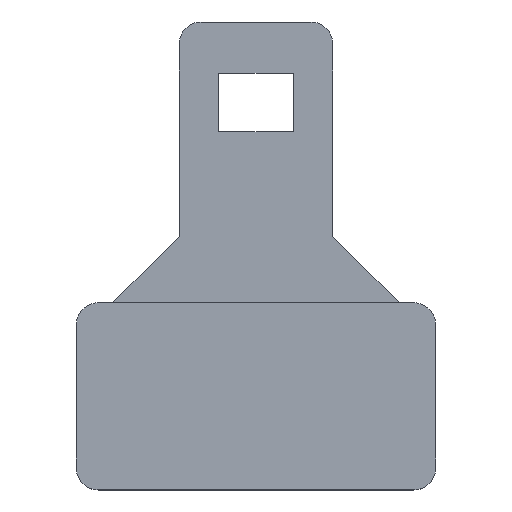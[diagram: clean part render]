
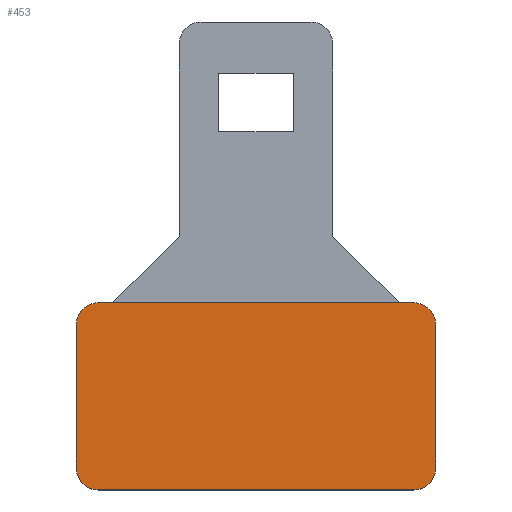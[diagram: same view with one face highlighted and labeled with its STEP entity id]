
A CAD part, top view. The second image highlights one B-rep face of the part: STEP entity #453.
In plain terms, the highlighted planar face has unit normal (0, 0, 1).
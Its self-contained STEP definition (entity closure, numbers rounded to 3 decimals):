
#30=PLANE('',#500);
#51=FACE_OUTER_BOUND('',#73,.T.);
#73=EDGE_LOOP('',(#354,#355,#356,#357,#358,#359,#360,#361));
#113=LINE('',#707,#161);
#118=LINE('',#722,#166);
#120=LINE('',#730,#168);
#123=LINE('',#741,#171);
#161=VECTOR('',#573,10.);
#166=VECTOR('',#586,10.);
#168=VECTOR('',#596,10.);
#171=VECTOR('',#609,10.);
#182=CIRCLE('',#490,3.);
#184=CIRCLE('',#494,3.);
#186=CIRCLE('',#498,3.);
#188=CIRCLE('',#501,3.);
#215=VERTEX_POINT('',#699);
#217=VERTEX_POINT('',#705);
#218=VERTEX_POINT('',#709);
#219=VERTEX_POINT('',#710);
#223=VERTEX_POINT('',#719);
#224=VERTEX_POINT('',#727);
#226=VERTEX_POINT('',#733);
#228=VERTEX_POINT('',#739);
#265=EDGE_CURVE('',#215,#217,#113,.T.);
#266=EDGE_CURVE('',#218,#219,#182,.T.);
#272=EDGE_CURVE('',#223,#219,#118,.T.);
#273=EDGE_CURVE('',#223,#217,#184,.T.);
#276=EDGE_CURVE('',#218,#224,#120,.T.);
#278=EDGE_CURVE('',#226,#224,#186,.T.);
#281=EDGE_CURVE('',#215,#228,#188,.T.);
#282=EDGE_CURVE('',#226,#228,#123,.T.);
#354=ORIENTED_EDGE('',*,*,#281,.F.);
#355=ORIENTED_EDGE('',*,*,#265,.T.);
#356=ORIENTED_EDGE('',*,*,#273,.F.);
#357=ORIENTED_EDGE('',*,*,#272,.T.);
#358=ORIENTED_EDGE('',*,*,#266,.F.);
#359=ORIENTED_EDGE('',*,*,#276,.T.);
#360=ORIENTED_EDGE('',*,*,#278,.F.);
#361=ORIENTED_EDGE('',*,*,#282,.T.);
#453=ADVANCED_FACE('',(#51),#30,.T.);
#490=AXIS2_PLACEMENT_3D('',#711,#576,#577);
#494=AXIS2_PLACEMENT_3D('',#724,#589,#590);
#498=AXIS2_PLACEMENT_3D('',#734,#600,#601);
#500=AXIS2_PLACEMENT_3D('',#738,#605,#606);
#501=AXIS2_PLACEMENT_3D('',#740,#607,#608);
#573=DIRECTION('',(-1.,0.,0.));
#576=DIRECTION('center_axis',(0.,0.,-1.));
#577=DIRECTION('ref_axis',(-0.707,-0.707,0.));
#586=DIRECTION('',(0.,-1.,0.));
#589=DIRECTION('center_axis',(0.,0.,-1.));
#590=DIRECTION('ref_axis',(-0.707,0.707,0.));
#596=DIRECTION('',(1.,0.,0.));
#600=DIRECTION('center_axis',(0.,0.,-1.));
#601=DIRECTION('ref_axis',(0.707,-0.707,0.));
#605=DIRECTION('center_axis',(0.,0.,1.));
#606=DIRECTION('ref_axis',(1.,0.,0.));
#607=DIRECTION('center_axis',(0.,0.,-1.));
#608=DIRECTION('ref_axis',(0.707,0.707,0.));
#609=DIRECTION('',(0.,1.,0.));
#699=CARTESIAN_POINT('',(24.071,-79.391,2.));
#705=CARTESIAN_POINT('',(-19.071,-79.391,2.));
#707=CARTESIAN_POINT('',(22.071,-79.391,2.));
#709=CARTESIAN_POINT('',(-19.071,-105.,2.));
#710=CARTESIAN_POINT('',(-22.071,-102.,2.));
#711=CARTESIAN_POINT('Origin',(-19.071,-102.,2.));
#719=CARTESIAN_POINT('',(-22.071,-82.391,2.));
#722=CARTESIAN_POINT('',(-22.071,-79.391,2.));
#724=CARTESIAN_POINT('Origin',(-19.071,-82.391,2.));
#727=CARTESIAN_POINT('',(24.071,-105.,2.));
#730=CARTESIAN_POINT('',(-22.071,-105.,2.));
#733=CARTESIAN_POINT('',(27.071,-102.,2.));
#734=CARTESIAN_POINT('Origin',(24.071,-102.,2.));
#738=CARTESIAN_POINT('Origin',(2.5,-92.196,2.));
#739=CARTESIAN_POINT('',(27.071,-82.391,2.));
#740=CARTESIAN_POINT('Origin',(24.071,-82.391,2.));
#741=CARTESIAN_POINT('',(27.071,-79.391,2.));
